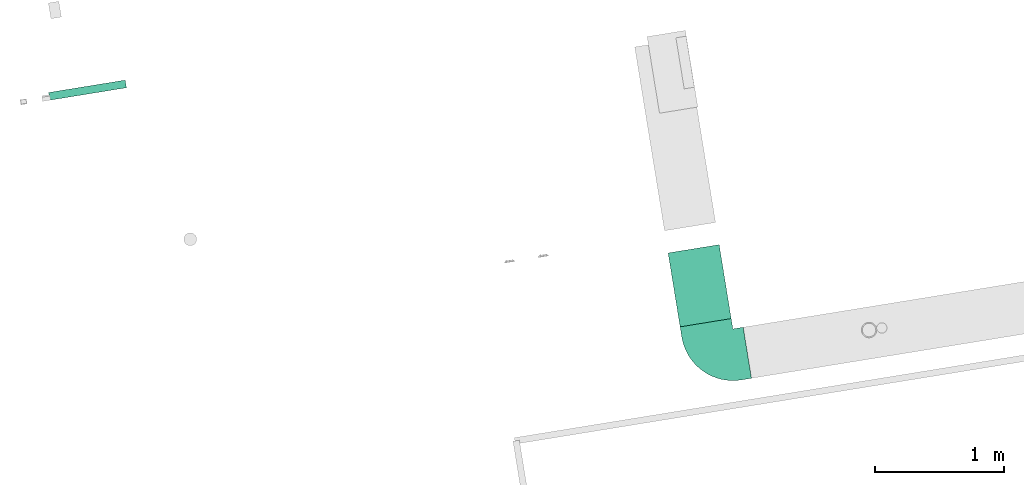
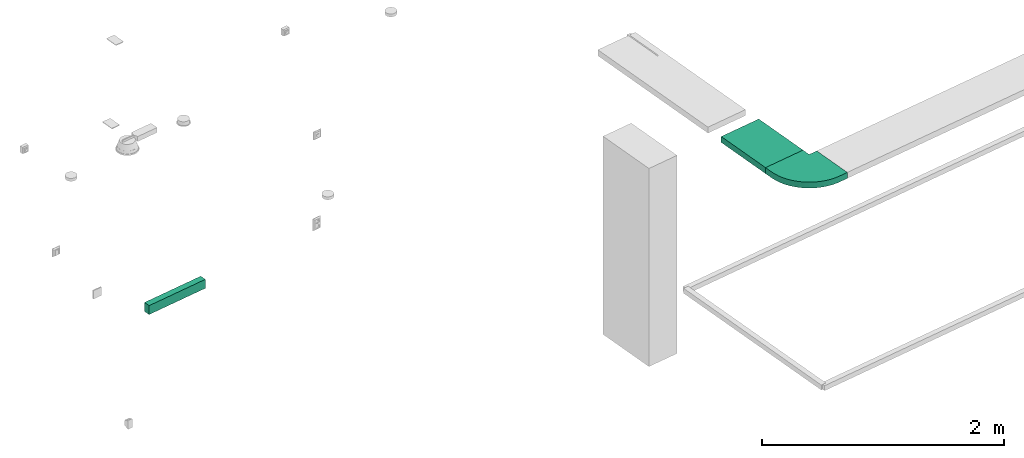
# One storey, part 2 of 20: 1 flow fitting, 1 flow segment, 1 flow terminal.
"""IFC2X3 building model written with IfcOpenShell, lengths in millimetres."""

from ifc_helpers import new_model, entity, si_unit, converted_unit, derived_unit, direction, frame, frame_2d, origin, origin_with_axes, origin_2d_with_axis, place, context, subcontext, project, spatial, polyline, circle_curve, parameter, trimmed, segment, composite_curve, rectangle, outline, extrude, source, transform, mapped, material, type_object, element, save


model = new_model("IFC2X3")

# Units and contexts
model_context = context("Model", 3, precision=0.01, world=origin(), true_north=direction((6.12323399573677e-17, 1.0)))
plan_context = context("Plan", 3, precision=1e-05, world=origin_with_axes())
body_context = subcontext(model_context, "Body", "Model", "MODEL_VIEW")
ifc_project = project(units=[converted_unit("PLANEANGLEUNIT", "DEGREE", entity("IfcPositiveLengthMeasure", 0.0174532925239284), si_unit("PLANEANGLEUNIT", "RADIAN"), dimensions=[0, 0, 0, 0, 0, 0, 0]), si_unit("AREAUNIT", "SQUARE_METRE"), si_unit("LENGTHUNIT", "METRE", prefix="MILLI"), si_unit("MASSUNIT", "GRAM", prefix="KILO"), si_unit("POWERUNIT", "WATT"), si_unit("PRESSUREUNIT", "PASCAL", prefix="KILO"), si_unit("FORCEUNIT", "NEWTON", prefix="KILO"), si_unit("ELECTRICVOLTAGEUNIT", "VOLT"), si_unit("ELECTRICCURRENTUNIT", "AMPERE"), si_unit("THERMODYNAMICTEMPERATUREUNIT", "DEGREE_CELSIUS"), si_unit("TIMEUNIT", "SECOND"), si_unit("VOLUMEUNIT", "CUBIC_METRE"), derived_unit("LINEARVELOCITYUNIT", [(si_unit("LENGTHUNIT", "METRE"), 1), (si_unit("TIMEUNIT", "SECOND"), -1)]), derived_unit("VOLUMETRICFLOWRATEUNIT", [(si_unit("VOLUMEUNIT", "CUBIC_METRE"), 1), (si_unit("TIMEUNIT", "SECOND"), -1)]), derived_unit("THERMALTRANSMITTANCEUNIT", [(si_unit("POWERUNIT", "WATT"), 1), (si_unit("THERMODYNAMICTEMPERATUREUNIT", "KELVIN"), -1), (si_unit("AREAUNIT", "SQUARE_METRE"), -1)]), derived_unit("SOUNDPRESSUREUNIT", [(si_unit("PRESSUREUNIT", "PASCAL"), 1)])], contexts=[model_context, plan_context])

# Site, building, storey
site_placement = place(None, frame((-0.219946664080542, 0.12226179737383, 0.0), z_axis=(0.0, 0.0, 1.0), x_axis=(-0.160236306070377, 0.987078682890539, 0.0)))
site = spatial("IfcSite", under=ifc_project, at=site_placement, Name="Default", CompositionType="ELEMENT")
building_placement = place(site_placement, origin_with_axes())
building = spatial("IfcBuilding", under=site, at=building_placement, CompositionType="ELEMENT")
storey_placement = place(building_placement, frame((0.0, 0.0, 50999.9999999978), z_axis=(0.0, 0.0, 1.0), x_axis=(1.0, 0.0, 0.0)))
storey = spatial("IfcBuildingStorey", under=building, at=storey_placement, Name="Nivå D", CompositionType="ELEMENT", Elevation=50999.9999999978)

# Flow fitting
ifc_material = material(Name="<Unnamed>")
cable_carrier_fitting_type = type_object("IfcCableCarrierFittingType", Name="M_Ladder Horizontal Bend:Standard", PredefinedType="NOTDEFINED", material=ifc_material)
shared_shape_1 = source(origin(), body_context, "Body", "SweptSolid", [
    extrude(outline(composite_curve([segment(polyline([(-160.500000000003, -320.499999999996), (-80.5000000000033, -320.499999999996)]), True, "CONTINUOUS"), segment(trimmed(circle_curve(frame_2d((-80.4999999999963, 80.5000000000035), x_axis=(0.0, -1.0)), 401.0), [parameter(0.0)], [parameter(90.0)], True, "PARAMETER"), True, "CONTINUOUS"), segment(polyline([(320.500000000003, 80.4999999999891), (320.500000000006, 160.499999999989)]), True, "CONTINUOUS"), segment(polyline([(320.500000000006, 160.499999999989), (-79.4999999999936, 160.500000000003)]), True, "CONTINUOUS"), segment(polyline([(-79.4999999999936, 160.500000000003), (-79.4999999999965, 80.5000000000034)]), True, "CONTINUOUS"), segment(trimmed(circle_curve(frame_2d((-80.4999999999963, 80.5000000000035), x_axis=(0.0, -1.0)), 0.999999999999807), [parameter(0.0)], [parameter(90.0)], True, "PARAMETER"), False, "CONTINUOUS"), segment(polyline([(-80.5000000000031, 79.5000000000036), (-160.500000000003, 79.5000000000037)]), True, "CONTINUOUS"), segment(polyline([(-160.500000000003, 79.5000000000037), (-160.500000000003, -320.499999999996)]), True, "CONTINUOUS")], self_intersect=False)), frame((-120.499999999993, 120.499999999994, -30.0)), (0.0, 0.0, 1.0), 60.0000000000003),
])
flow_fitting_placement = place(storey_placement, frame((774680.46945949, -594202.480498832, 2925.0), z_axis=(0.0, 0.0, 1.0), x_axis=(-1.0, 0.0, 0.0)))
element("IfcFlowFitting", 1, at=flow_fitting_placement, inside=storey, type_object=cable_carrier_fitting_type, material=ifc_material, Name="M_Ladder Horizontal Bend:Standard", ObjectType="M_Ladder Horizontal Bend:Standard", context=body_context, shape_type="MappedRepresentation", body=[
    mapped(shared_shape_1, transform((0.0, 0.0, 0.0), scale=1.0)),
])

# Flow terminal
light_fixture_type = type_object("IfcLightFixtureType", Name="Speilarmatur LED p-toalett:-UP1118 Dummy-LF L600", PredefinedType="NOTDEFINED", material=ifc_material)
shared_shape_2 = source(origin(), body_context, "Body", "SweptSolid", [
    extrude(rectangle(XDim=600.0, YDim=60.0, at=origin_2d_with_axis()), frame((0.0, 30.0, -45.0), z_axis=(0.0, 0.0, 1.0), x_axis=(-1.0, 0.0, 0.0)), (0.0, 0.0, 1.0), 90.0),
])
flow_terminal_placement = place(storey_placement, frame((777532.619644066, -589772.481738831, 2160.0), z_axis=(0.0, 0.0, 1.0), x_axis=(0.0, 1.0, 0.0)))
element("IfcFlowTerminal", 2, at=flow_terminal_placement, inside=storey, type_object=light_fixture_type, material=ifc_material, Name="Speilarmatur LED p-toalett:-UP1118 Dummy-LF L600", ObjectType="Speilarmatur LED p-toalett:-UP1118 Dummy-LF L600", context=body_context, shape_type="MappedRepresentation", body=[
    mapped(shared_shape_2, transform((0.0, 0.0, 0.0), scale=1.0)),
])

# Flow segment
cable_carrier_segment_type = type_object("IfcCableCarrierSegmentType", Name="Cable Tray with Fittings:Kabelbro", PredefinedType="CABLETRAYSEGMENT")
flow_segment_placement = place(storey_placement, origin_with_axes())
element("IfcFlowSegment", 3, at=flow_segment_placement, inside=storey, type_object=cable_carrier_segment_type, Name="Cable Tray with Fittings:Kabelbro", ObjectType="Cable Tray with Fittings:Kabelbro", context=body_context, shape_type="SweptSolid", body=[
    extrude(rectangle(XDim=579.000000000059, YDim=400.000000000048, at=origin_2d_with_axis()), frame((775250.969459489, -594202.480498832, 2895.0)), (0.0, 0.0, 1.0), 60.0000000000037),
])

save(model, "model.ifc")
